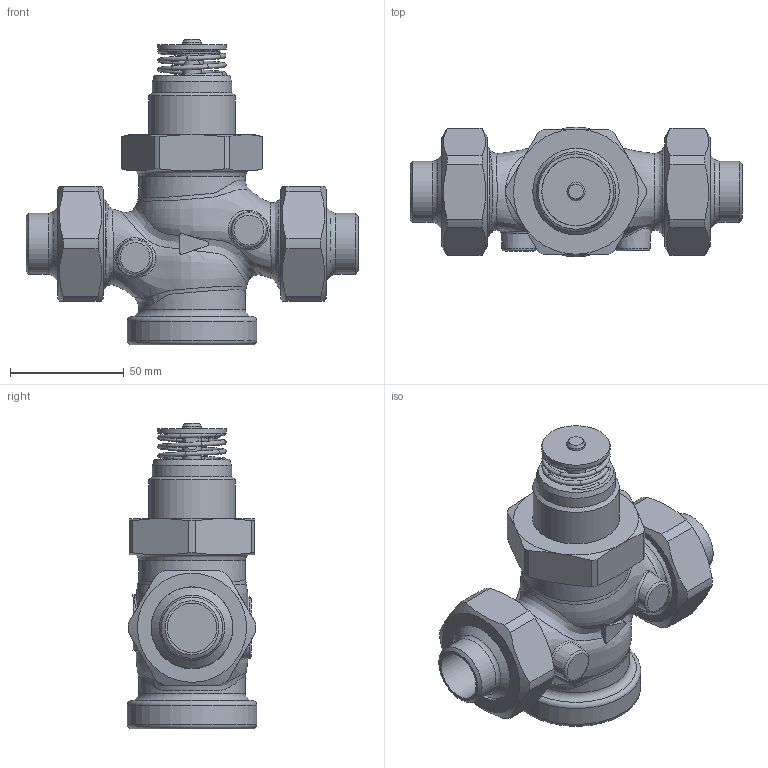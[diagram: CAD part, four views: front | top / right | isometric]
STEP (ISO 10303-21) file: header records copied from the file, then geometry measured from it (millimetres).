
FILE_DESCRIPTION(/* description */ (''),/* implementation_level */ '2;1');
FILE_NAME(/* name */ 'rv122r_dn20_W.stp',/* time_stamp */ '2012-05-23T16:01:51+02:00',/* author */ ('KLIMES'),/* organization */ ('LDM'),/* preprocessor_version */ 'ST-DEVELOPER v11',/* originating_system */ 'SIEMENS PLM Software NX 7.0',/* authorisation */ '');
FILE_SCHEMA (('CONFIG_CONTROL_DESIGN'));
Length unit declared in the file: millimetre
Products named in the file (1): klim7AA7h839
Bounding box: 146 x 57 x 134.5 mm (x, y, z)
Volume: 59813.9 mm3; surface area: 63931.2 mm2
Topology: 6 solids, 7 shells, 195 faces, 466 edges, 296 vertices
Faces by surface type: plane 58, cylinder 53, cone 36, torus 28, bspline 20
Full cylindrical faces by diameter (mm): 8 x2, 21.7 x2, 24.5 x1, 26.9 x2, 28 x2, 30 x1, 35 x1, 35.8 x2, 36 x2, 38 x3, 38.6 x2, 38.952 x2, 41.91 x2, 47 x2, 57 x1
Entity records: 10830 total; most frequent: CARTESIAN_POINT 7000, DIRECTION 745, ORIENTED_EDGE 676, AXIS2_PLACEMENT_3D 343, EDGE_CURVE 338, EDGE_LOOP 303, VERTEX_POINT 251, FACE_BOUND 210
